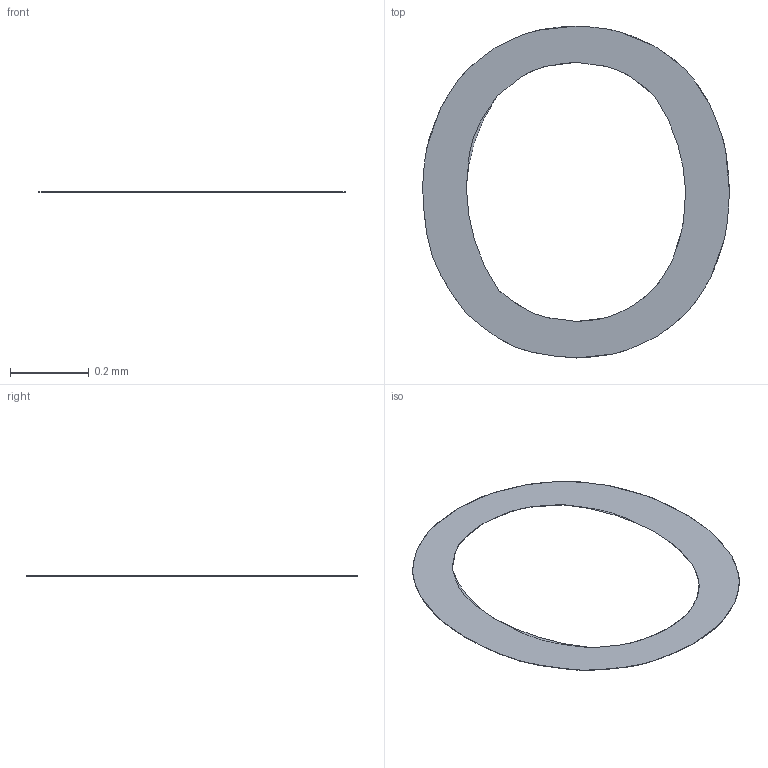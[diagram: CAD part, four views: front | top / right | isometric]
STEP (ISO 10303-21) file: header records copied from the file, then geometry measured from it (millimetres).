
FILE_DESCRIPTION(/* description */ ('STEP AP242 Edition 2','CAx-IF Rec.Pracs.---Representation and Presentation of Product Manufacturing Information (PMI)---4.0---2014-10-13','CAx-IF Rec.Pracs.---3D Tessellated Geometry---0.4---2014-09-14','2;1','CAx-IF Rec.Pracs.---User Defined Attributes---1.5---2016-08-15'),/* implementation_level */ '2;1');
FILE_NAME(/* name */ 'Drone Layout - Surface 359',/* time_stamp */ '2026-10-04T22:22:57Z',/* author */ (''),/* organization */ (''),/* preprocessor_version */ 'ST-DEVELOPER v20',/* originating_system */ 'ONSHAPE BY PTC INC, 1.221',/* authorisation */ ' ');
FILE_SCHEMA (('AP242_MANAGED_MODEL_BASED_3D_ENGINEERING_MIM_LF { 1 0 10303 442 3 1 4 }'));
Length unit declared in the file: metre
Products named in the file (1): VL53L0X:1__Body15
Bounding box: 0.78 x 0.85 x 0 mm (x, y, z)
Volume: 0 mm3; surface area: 0.5 mm2
Topology: 1 solids, 1 shells, 22 faces, 60 edges, 40 vertices
Faces by surface type: bspline 20, plane 2
Entity records: 882 total; most frequent: CARTESIAN_POINT 444, ORIENTED_EDGE 120, EDGE_CURVE 60, VERTEX_POINT 40, B_SPLINE_CURVE_WITH_KNOTS 40, DIRECTION 26, EDGE_LOOP 24, FACE_BOUND 24
